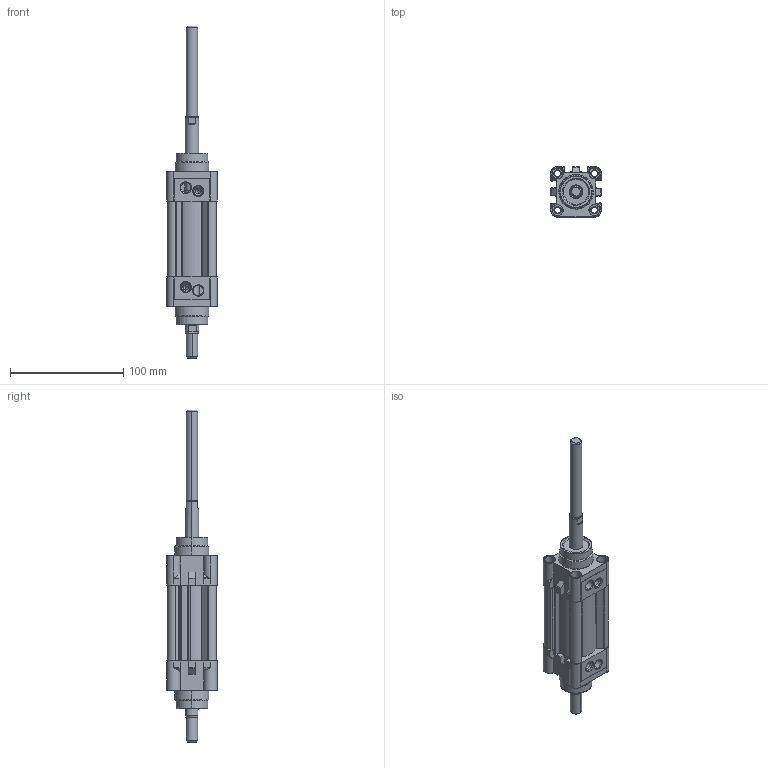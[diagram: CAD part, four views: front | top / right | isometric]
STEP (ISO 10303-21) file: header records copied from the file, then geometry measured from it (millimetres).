
FILE_DESCRIPTION (( 'STEP AP203' ), '1' );
FILE_NAME ('KDNT32X25CIFTMILLI-STROK AYARLI-CYLINDER.STEP', '2015-03-24T07:39:56', ( 'user' ), ( '' ), 'SwSTEP 2.0', 'SolidWorks 2013', '' );
FILE_SCHEMA (( 'CONFIG_CONTROL_DESIGN' ));
Length unit declared in the file: millimetre
Products named in the file (6): 烰 KAPAK; ORTA PÝSTON ÇÝFT MÝLLÝ; KDNT Piston Mili 32X25; KDNT 32X25 BORU; SAPLAMALI M尳 STROK AYARLI 32x25; KDNT32X25CIFTMILLI-STROK AYARLI-CYLINDER
Assembly tree (6 placements, depth 2):
  KDNT32X25CIFTMILLI-STROK AYARLI-CYLINDER
    烰 KAPAK  x2
    ORTA PÝSTON ÇÝFT MÝLLÝ
    KDNT Piston Mili 32X25
    KDNT 32X25 BORU
    SAPLAMALI M尳 STROK AYARLI 32x25
Bounding box: 44.45 x 44.65 x 293 mm (x, y, z)
Volume: 158134.3 mm3; surface area: 80472.2 mm2
Topology: 8 solids, 10 shells, 776 faces, 1931 edges, 1210 vertices
Faces by surface type: cylinder 285, plane 206, cone 149, bspline 136
Entity records: 20774 total; most frequent: CARTESIAN_POINT 8851, ORIENTED_EDGE 2428, DIRECTION 2265, EDGE_CURVE 1214, AXIS2_PLACEMENT_3D 878, VERTEX_POINT 770, EDGE_LOOP 560, LINE 509
